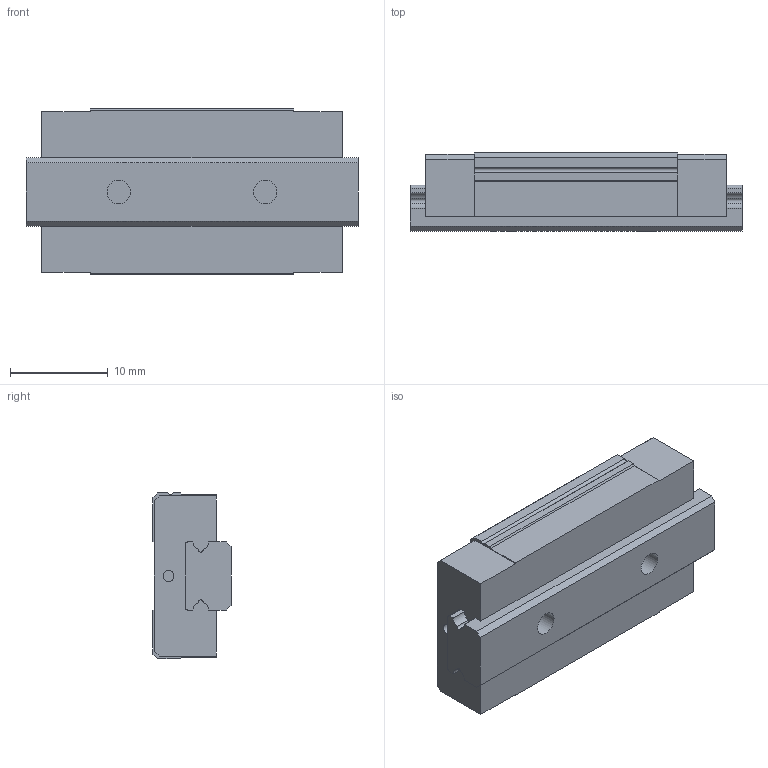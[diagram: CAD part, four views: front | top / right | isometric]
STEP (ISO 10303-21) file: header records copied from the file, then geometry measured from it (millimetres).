
FILE_DESCRIPTION( ( 'STEP AP214' ), '1' );
FILE_NAME( 'G:/品牌/AZI工艺/滑块/GGC/GGC7BAL.stp', '2024-01-19T03:43:15', ( 'License CC BY-ND 4.0' ), ( 'CADENAS' ), ' ', 'PARTsolutions', ' ' );
FILE_SCHEMA( ( 'AUTOMOTIVE_DESIGN { 1 0 10303 214 1 1 1 1 }' ) );
Length unit declared in the file: millimetre
Products named in the file (3): ZLCE8-34-(17-0-0); _ZTCE8-34; _ZZLCE8
Assembly tree (2 placements, depth 2):
  ZLCE8-34-(17-0-0)
    _ZTCE8-34
    _ZZLCE8
Bounding box: 34 x 8 x 17 mm (x, y, z)
Volume: 3559.4 mm3; surface area: 2949.5 mm2
Topology: 2 solids, 2 shells, 88 faces, 228 edges, 148 vertices
Faces by surface type: plane 53, cylinder 27, cone 8
Full cylindrical faces by diameter (mm): 1.1 x2, 1.567 x4, 2.4 x2, 4.2 x2
Entity records: 3330 total; most frequent: DIRECTION 446, CARTESIAN_POINT 445, ORIENTED_EDGE 412, EDGE_CURVE 206, AXIS2_PLACEMENT_3D 149, VERTEX_POINT 148, LINE 148, VECTOR 148
